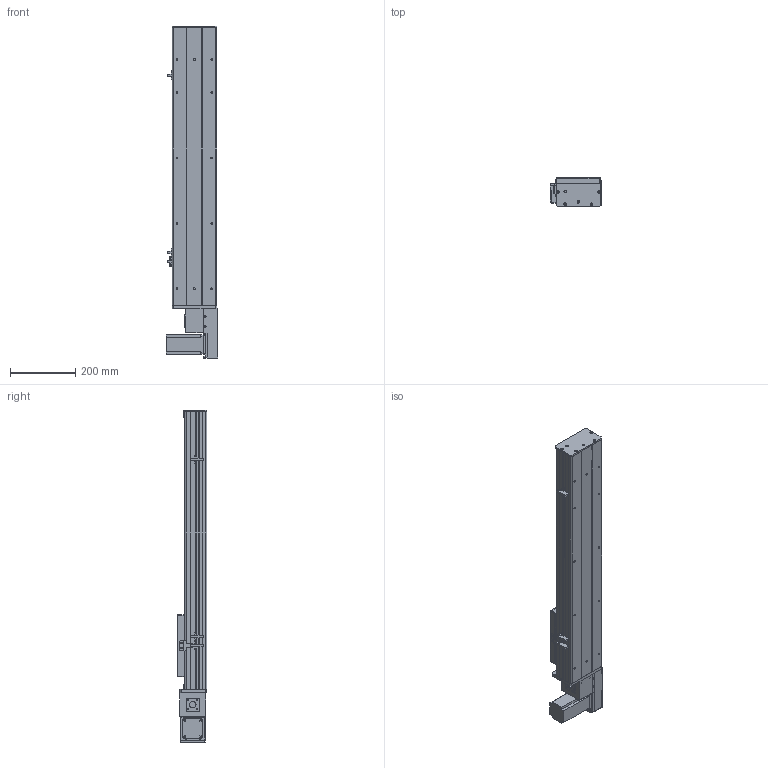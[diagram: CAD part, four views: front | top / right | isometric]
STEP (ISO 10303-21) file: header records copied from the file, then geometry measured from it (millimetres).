
FILE_DESCRIPTION (( 'STEP AP203' ), '1' );
FILE_NAME ('Y135CB-D90-S550-BL-P400W.STEP', '2020-02-17T08:28:50', ( '微软用户' ), ( '微软中国' ), 'SwSTEP 2.0', 'SolidWorks 2017', '' );
FILE_SCHEMA (( 'CONFIG_CONTROL_DESIGN' ));
Length unit declared in the file: millimetre
Products named in the file (18): C-詩湍揤踡え-陔; Y10B--々湍喘謫眊--666; 135CB--詩湍-CE; Y10B-耜蚾蟀諉啣----; Y100-135俋离換覜ん--; Y俋欶BR----; Y135C-陔俋离換覜結え-; 0B-埴倛裔啣; 5C--俋欶; 0B-源倛裔啣; C-雄赽釱--; 0B-萇儂楊擘啣; Y135CB-耜裔; Y135CB-D90-S550-BL-P400W; san松下电机400不带刹车----; 135CB---遴掛极.-; 5CB --掛极耜裔啣-; 35CB---喘謫眊楊擘啣
Assembly tree (21 placements, depth 2):
  Y135CB-D90-S550-BL-P400W
    Y135CB-耜裔
    135CB---遴掛极.-
    35CB---喘謫眊楊擘啣
    Y10B--々湍喘謫眊--666
    Y10B-耜蚾蟀諉啣----
    Y俋欶BR----
    0B-埴倛裔啣
    0B-源倛裔啣
    0B-萇儂楊擘啣
    san松下电机400不带刹车----
    5CB --掛极耜裔啣-  x2
    C-詩湍揤踡え-陔  x2
    135CB--詩湍-CE
    Y100-135俋离換覜ん--  x3
    Y135C-陔俋离換覜結え-
    5C--俋欶
    C-雄赽釱--
Bounding box: 157.5 x 91 x 1014.5 mm (x, y, z)
Volume: 3218635.3 mm3; surface area: 1248216.4 mm2
Topology: 21 solids, 21 shells, 937 faces, 2491 edges, 1650 vertices
Faces by surface type: cylinder 463, plane 458, cone 16
Entity records: 28937 total; most frequent: DIRECTION 4803, CARTESIAN_POINT 4724, ORIENTED_EDGE 4458, EDGE_CURVE 2229, AXIS2_PLACEMENT_3D 1745, VERTEX_POINT 1478, VECTOR 1313, LINE 1313
